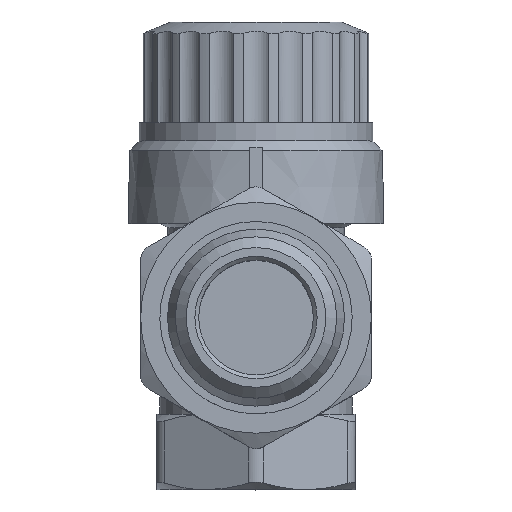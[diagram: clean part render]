
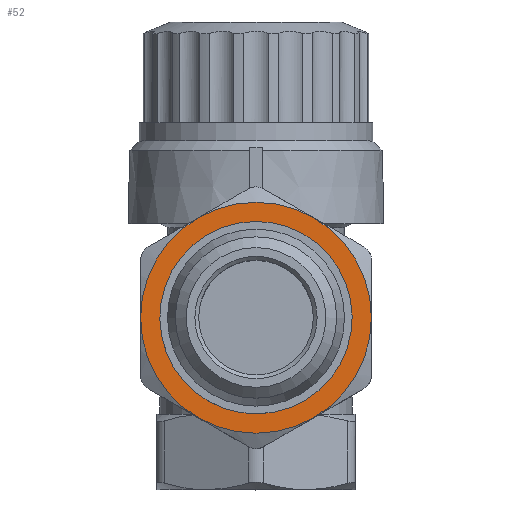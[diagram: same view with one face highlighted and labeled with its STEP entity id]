
A CAD part, top view. The second image highlights one B-rep face of the part: STEP entity #52.
In plain terms, the highlighted planar face has unit normal (0, 0, 1).
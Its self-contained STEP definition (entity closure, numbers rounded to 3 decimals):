
#52=ADVANCED_FACE('',(#369,#371),#373,.T.);
#369=FACE_BOUND('',#370,.T.);
#370=EDGE_LOOP('',(#2281,#2282,#2283,#2284,#2285,#2286));
#371=FACE_BOUND('',#372,.T.);
#372=EDGE_LOOP('',(#2287));
#373=PLANE('',#374);
#374=AXIS2_PLACEMENT_3D('',#375,#376,#377);
#375=CARTESIAN_POINT('',(0.,0.,35.307));
#376=DIRECTION('',(0.,0.,1.));
#377=DIRECTION('',(1.,0.,0.));
#2281=ORIENTED_EDGE('',*,*,#3791,.T.);
#2282=ORIENTED_EDGE('',*,*,#3792,.T.);
#2283=ORIENTED_EDGE('',*,*,#3793,.T.);
#2284=ORIENTED_EDGE('',*,*,#3794,.T.);
#2285=ORIENTED_EDGE('',*,*,#3795,.T.);
#2286=ORIENTED_EDGE('',*,*,#3796,.T.);
#2287=ORIENTED_EDGE('',*,*,#3788,.T.);
#3788=EDGE_CURVE('',#4480,#4480,#4481,.T.);
#3791=EDGE_CURVE('',#4486,#4487,#4488,.F.);
#3792=EDGE_CURVE('',#4487,#4489,#4490,.F.);
#3793=EDGE_CURVE('',#4489,#4491,#4492,.F.);
#3794=EDGE_CURVE('',#4491,#4493,#4494,.F.);
#3795=EDGE_CURVE('',#4493,#4495,#4496,.F.);
#3796=EDGE_CURVE('',#4495,#4486,#4497,.F.);
#4480=VERTEX_POINT('',#5635);
#4481=CIRCLE('',#5636,10.95);
#4486=VERTEX_POINT('',#5650);
#4487=VERTEX_POINT('',#5651);
#4488=CIRCLE('',#5652,15.);
#4489=VERTEX_POINT('',#5656);
#4490=CIRCLE('',#5657,15.);
#4491=VERTEX_POINT('',#5661);
#4492=CIRCLE('',#5662,15.);
#4493=VERTEX_POINT('',#5666);
#4494=CIRCLE('',#5667,15.);
#4495=VERTEX_POINT('',#5671);
#4496=CIRCLE('',#5672,15.);
#4497=CIRCLE('',#5676,15.);
#5635=CARTESIAN_POINT('',(0.,-10.95,35.307));
#5636=AXIS2_PLACEMENT_3D('',#5637,#5638,#5639);
#5637=CARTESIAN_POINT('',(0.,0.,35.307));
#5638=DIRECTION('',(0.,0.,-1.));
#5639=DIRECTION('',(0.,-1.,0.));
#5650=CARTESIAN_POINT('',(7.5,-12.99,35.307));
#5651=CARTESIAN_POINT('',(15.,0.,35.307));
#5652=AXIS2_PLACEMENT_3D('',#5653,#5654,#5655);
#5653=CARTESIAN_POINT('',(0.,0.,35.307));
#5654=DIRECTION('',(0.,0.,-1.));
#5655=DIRECTION('',(1.,0.,0.));
#5656=CARTESIAN_POINT('',(7.5,12.99,35.307));
#5657=AXIS2_PLACEMENT_3D('',#5658,#5659,#5660);
#5658=CARTESIAN_POINT('',(0.,0.,35.307));
#5659=DIRECTION('',(0.,0.,-1.));
#5660=DIRECTION('',(0.5,0.866,0.));
#5661=CARTESIAN_POINT('',(-7.5,12.99,35.307));
#5662=AXIS2_PLACEMENT_3D('',#5663,#5664,#5665);
#5663=CARTESIAN_POINT('',(0.,0.,35.307));
#5664=DIRECTION('',(0.,0.,-1.));
#5665=DIRECTION('',(-0.5,0.866,0.));
#5666=CARTESIAN_POINT('',(-15.,0.,35.307));
#5667=AXIS2_PLACEMENT_3D('',#5668,#5669,#5670);
#5668=CARTESIAN_POINT('',(0.,0.,35.307));
#5669=DIRECTION('',(0.,0.,-1.));
#5670=DIRECTION('',(-1.,0.,0.));
#5671=CARTESIAN_POINT('',(-7.5,-12.99,35.307));
#5672=AXIS2_PLACEMENT_3D('',#5673,#5674,#5675);
#5673=CARTESIAN_POINT('',(0.,0.,35.307));
#5674=DIRECTION('',(0.,0.,-1.));
#5675=DIRECTION('',(-0.5,-0.866,0.));
#5676=AXIS2_PLACEMENT_3D('',#5677,#5678,#5679);
#5677=CARTESIAN_POINT('',(0.,0.,35.307));
#5678=DIRECTION('',(0.,0.,-1.));
#5679=DIRECTION('',(0.5,-0.866,0.));
